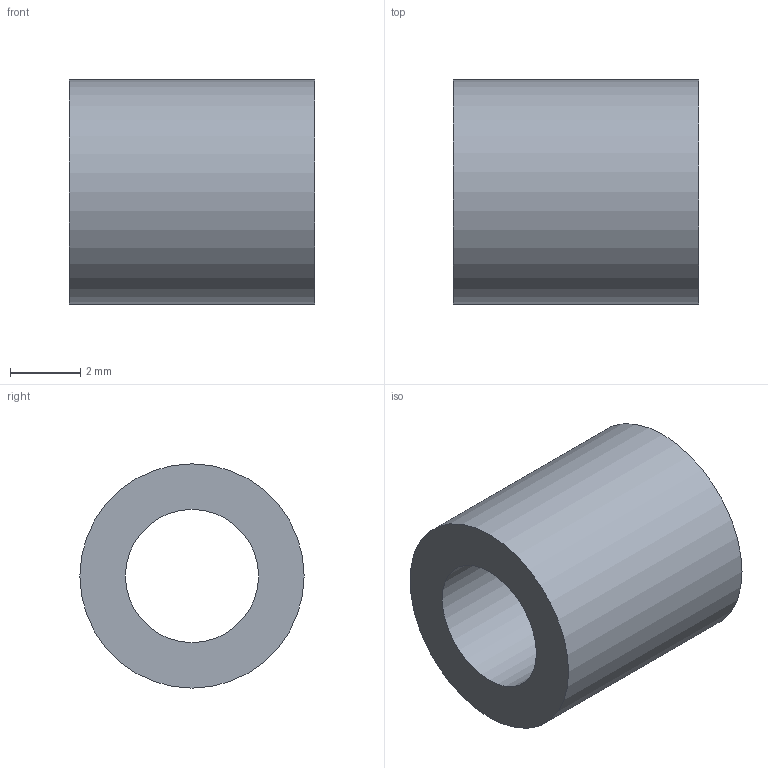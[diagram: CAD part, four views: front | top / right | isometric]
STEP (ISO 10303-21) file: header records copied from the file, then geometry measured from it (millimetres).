
FILE_DESCRIPTION(('Open CASCADE Model'),'2;1');
FILE_NAME('Open CASCADE Shape Model','2026-11-25T12:52:00',('Author'),( 'Open CASCADE'),'Open CASCADE STEP processor 8.0','Open CASCADE 8.0' ,'Unknown');
FILE_SCHEMA(('AP242_MANAGED_MODEL_BASED_3D_ENGINEERING_MIM_LF {1 0 10303 442 1 1 4 }' ));
Length unit declared in the file: millimetre
Products named in the file (1): Cam ring
Bounding box: 7 x 6.4 x 6.4 mm (x, y, z)
Volume: 145.8 mm3; surface area: 266 mm2
Topology: 1 solids, 1 shells, 4 faces, 6 edges, 4 vertices
Faces by surface type: cylinder 2, plane 2
Full cylindrical faces by diameter (mm): 3.8 x1, 6.4 x1
Entity records: 195 total; most frequent: DIRECTION 32, CARTESIAN_POINT 27, ORIENTED_EDGE 12, PCURVE 12, DEFINITIONAL_REPRESENTATION 12, LINE 10, VECTOR 10, AXIS2_PLACEMENT_3D 9
